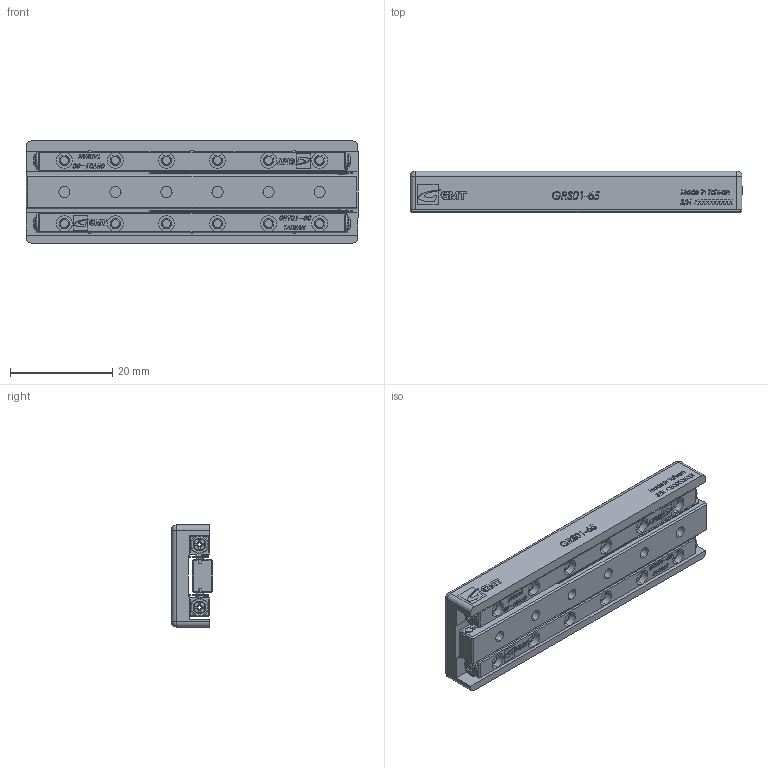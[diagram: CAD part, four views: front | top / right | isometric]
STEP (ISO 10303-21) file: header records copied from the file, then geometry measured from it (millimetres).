
FILE_DESCRIPTION (( 'STEP AP203' ), '1' );
FILE_NAME ('GRS20-65.STEP', '2012-10-22T01:16:43', ( '123' ), ( '' ), 'SwSTEP 2.0', 'SolidWorks 2012', '' );
FILE_SCHEMA (( 'CONFIG_CONTROL_DESIGN' ));
Products named in the file (1): GRS20-65
Bounding box: 65 x 8.07 x 20 mm (x, y, z)
Surface area: 8057.7 mm2 (no closed solid volume)
Topology: 0 solids, 61 shells, 992 faces, 5196 edges, 4106 vertices
Faces by surface type: plane 668, cylinder 142, cone 76, torus 60, bspline 34, sphere 12
Entity records: 57033 total; most frequent: CARTESIAN_POINT 18353, DIRECTION 7274, ORIENTED_EDGE 7044, EDGE_CURVE 5168, VERTEX_POINT 4106, VECTOR 3392, LINE 3392, AXIS2_PLACEMENT_3D 1941
